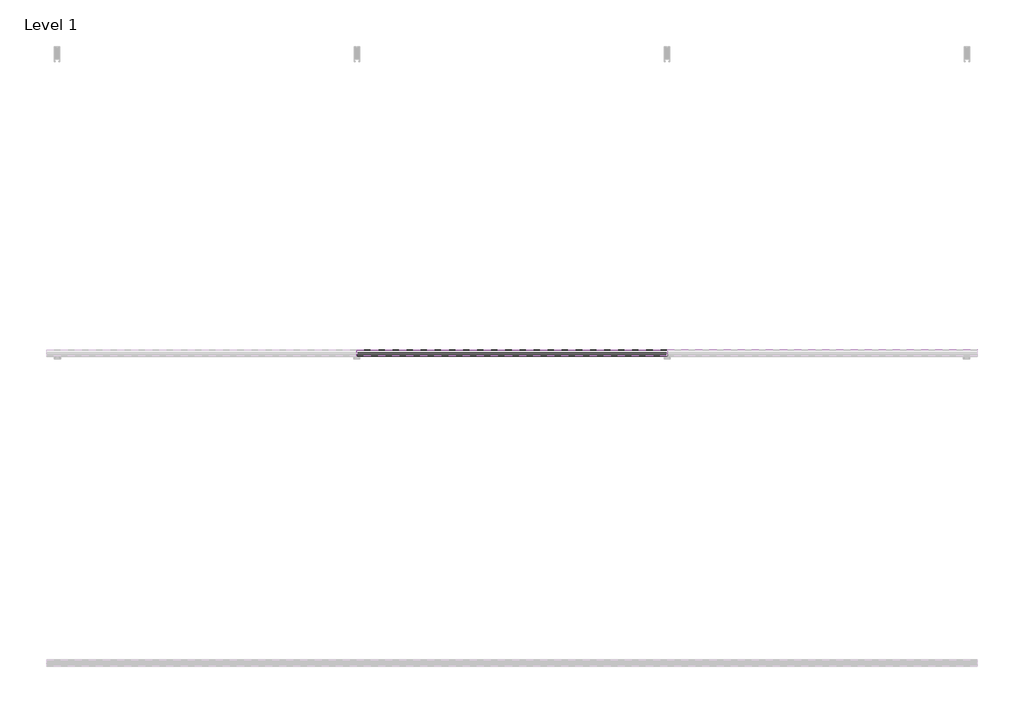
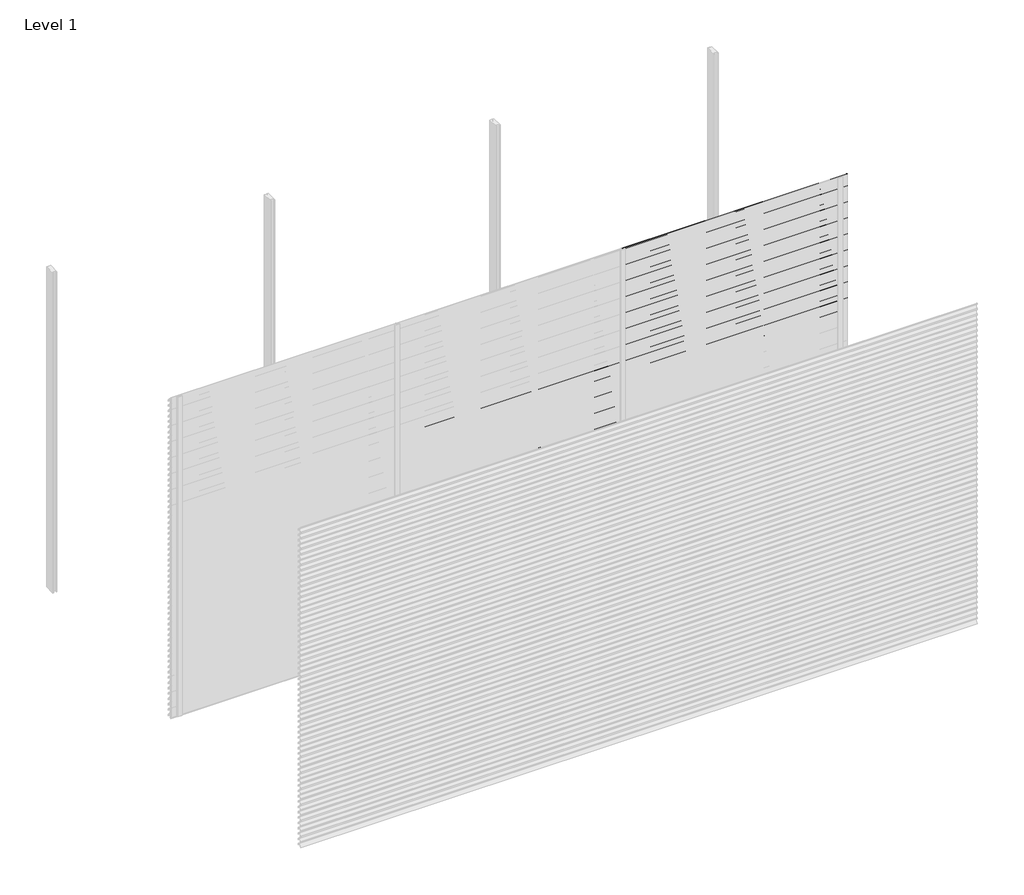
# One storey, part 23 of 38: 66 proxies.
"""IFC4 building model written with IfcOpenShell, lengths in millimetres."""

from ifc_helpers import new_model, si_unit, frame, origin, place, context, project, spatial, polyline, outline, extrude, element, save

model = new_model("IFC4")

# Units and contexts
model_context = context("Model", 3, world=origin())
ifc_project = project(units=[si_unit("LENGTHUNIT", "METRE", prefix="MILLI")], contexts=[model_context])

# Site, building, storey
site = spatial("IfcSite", under=ifc_project)
building = spatial("IfcBuilding", under=site)
storey = spatial("IfcBuildingStorey", under=building, Name="Level 1", Elevation=0.0)

# Proxies
placement = place(None, origin())
element("IfcBuildingElementProxy", 1, Name="Wall Sweeps", at=placement, inside=storey, context=model_context, shape_type="SweptSolid", body=[
    extrude(outline(polyline([(-23996.75, 1950.0), (-23996.75, 1939.19656), (-23974.6057113, 1926.4115489), (-23957.0, 1909.0472005), (-23957.0, 1894.0472005), (-23958.3, 1895.0268207), (-23958.3, 1908.5034593), (-23969.4914725, 1919.541504), (-23994.2797376, 1890.0), (-23995.9767671, 1890.0), (-23970.4200307, 1920.4573323), (-23975.3999793, 1925.3690091), (-23998.0, 1938.4171371), (-23998.0, 1950.0), (-23996.75, 1950.0)])), frame((2000.0, 0.0, 0.0), z_axis=(1.0, 0.0, 0.0), x_axis=(0.0, 1.0, 0.0)), (0.0, 0.0, 1.0), 2000.0),
])
element("IfcBuildingElementProxy", 2, Name="Wall Sweeps", at=placement, inside=storey, context=model_context, shape_type="SweptSolid", body=[
    extrude(outline(polyline([(-23996.75, 1900.0), (-23996.75, 1889.19656), (-23974.6057113, 1876.4115489), (-23957.0, 1859.0472005), (-23957.0, 1844.0472005), (-23958.3, 1845.0268207), (-23958.3, 1858.5034593), (-23969.4914725, 1869.541504), (-23994.2797376, 1840.0), (-23995.9767671, 1840.0), (-23970.4200307, 1870.4573323), (-23975.3999793, 1875.3690091), (-23998.0, 1888.4171371), (-23998.0, 1900.0), (-23996.75, 1900.0)])), frame((2000.0, 0.0, 0.0), z_axis=(1.0, 0.0, 0.0), x_axis=(0.0, 1.0, 0.0)), (0.0, 0.0, 1.0), 2000.0),
])
element("IfcBuildingElementProxy", 3, Name="Wall Sweeps", at=placement, inside=storey, context=model_context, shape_type="SweptSolid", body=[
    extrude(outline(polyline([(-23996.75, 1850.0), (-23996.75, 1839.19656), (-23974.6057113, 1826.4115489), (-23957.0, 1809.0472005), (-23957.0, 1794.0472005), (-23958.3, 1795.0268207), (-23958.3, 1808.5034593), (-23969.4914725, 1819.541504), (-23994.2797376, 1790.0), (-23995.9767671, 1790.0), (-23970.4200307, 1820.4573323), (-23975.3999793, 1825.3690091), (-23998.0, 1838.4171371), (-23998.0, 1850.0), (-23996.75, 1850.0)])), frame((2000.0, 0.0, 0.0), z_axis=(1.0, 0.0, 0.0), x_axis=(0.0, 1.0, 0.0)), (0.0, 0.0, 1.0), 2000.0),
])
element("IfcBuildingElementProxy", 4, Name="Wall Sweeps", at=placement, inside=storey, context=model_context, shape_type="SweptSolid", body=[
    extrude(outline(polyline([(-23996.75, 1800.0), (-23996.75, 1789.19656), (-23974.6057113, 1776.4115489), (-23957.0, 1759.0472005), (-23957.0, 1744.0472005), (-23958.3, 1745.0268207), (-23958.3, 1758.5034593), (-23969.4914725, 1769.541504), (-23994.2797376, 1740.0), (-23995.9767671, 1740.0), (-23970.4200307, 1770.4573323), (-23975.3999793, 1775.3690091), (-23998.0, 1788.4171371), (-23998.0, 1800.0), (-23996.75, 1800.0)])), frame((2000.0, 0.0, 0.0), z_axis=(1.0, 0.0, 0.0), x_axis=(0.0, 1.0, 0.0)), (0.0, 0.0, 1.0), 2000.0),
])
element("IfcBuildingElementProxy", 5, Name="Wall Sweeps", at=placement, inside=storey, context=model_context, shape_type="SweptSolid", body=[
    extrude(outline(polyline([(-23996.75, 1750.0), (-23996.75, 1739.19656), (-23974.6057113, 1726.4115489), (-23957.0, 1709.0472005), (-23957.0, 1694.0472005), (-23958.3, 1695.0268207), (-23958.3, 1708.5034593), (-23969.4914725, 1719.541504), (-23994.2797376, 1690.0), (-23995.9767671, 1690.0), (-23970.4200307, 1720.4573323), (-23975.3999793, 1725.3690091), (-23998.0, 1738.4171371), (-23998.0, 1750.0), (-23996.75, 1750.0)])), frame((2000.0, 0.0, 0.0), z_axis=(1.0, 0.0, 0.0), x_axis=(0.0, 1.0, 0.0)), (0.0, 0.0, 1.0), 2000.0),
])
element("IfcBuildingElementProxy", 6, Name="Wall Sweeps", at=placement, inside=storey, context=model_context, shape_type="SweptSolid", body=[
    extrude(outline(polyline([(-23996.75, 1700.0), (-23996.75, 1689.19656), (-23974.6057113, 1676.4115489), (-23957.0, 1659.0472005), (-23957.0, 1644.0472005), (-23958.3, 1645.0268207), (-23958.3, 1658.5034593), (-23969.4914725, 1669.541504), (-23994.2797376, 1640.0), (-23995.9767671, 1640.0), (-23970.4200307, 1670.4573323), (-23975.3999793, 1675.3690091), (-23998.0, 1688.4171371), (-23998.0, 1700.0), (-23996.75, 1700.0)])), frame((2000.0, 0.0, 0.0), z_axis=(1.0, 0.0, 0.0), x_axis=(0.0, 1.0, 0.0)), (0.0, 0.0, 1.0), 2000.0),
])
element("IfcBuildingElementProxy", 7, Name="Wall Sweeps", at=placement, inside=storey, context=model_context, shape_type="SweptSolid", body=[
    extrude(outline(polyline([(-23996.75, 1650.0), (-23996.75, 1639.19656), (-23974.6057113, 1626.4115489), (-23957.0, 1609.0472005), (-23957.0, 1594.0472005), (-23958.3, 1595.0268207), (-23958.3, 1608.5034593), (-23969.4914725, 1619.541504), (-23994.2797376, 1590.0), (-23995.9767671, 1590.0), (-23970.4200307, 1620.4573323), (-23975.3999793, 1625.3690091), (-23998.0, 1638.4171371), (-23998.0, 1650.0), (-23996.75, 1650.0)])), frame((2000.0, 0.0, 0.0), z_axis=(1.0, 0.0, 0.0), x_axis=(0.0, 1.0, 0.0)), (0.0, 0.0, 1.0), 2000.0),
])
element("IfcBuildingElementProxy", 8, Name="Wall Sweeps", at=placement, inside=storey, context=model_context, shape_type="SweptSolid", body=[
    extrude(outline(polyline([(-23996.75, 1600.0), (-23996.75, 1589.19656), (-23974.6057113, 1576.4115489), (-23957.0, 1559.0472005), (-23957.0, 1544.0472005), (-23958.3, 1545.0268207), (-23958.3, 1558.5034593), (-23969.4914725, 1569.541504), (-23994.2797376, 1540.0), (-23995.9767671, 1540.0), (-23970.4200307, 1570.4573323), (-23975.3999793, 1575.3690091), (-23998.0, 1588.4171371), (-23998.0, 1600.0), (-23996.75, 1600.0)])), frame((2000.0, 0.0, 0.0), z_axis=(1.0, 0.0, 0.0), x_axis=(0.0, 1.0, 0.0)), (0.0, 0.0, 1.0), 2000.0),
])
element("IfcBuildingElementProxy", 9, Name="Wall Sweeps", at=placement, inside=storey, context=model_context, shape_type="SweptSolid", body=[
    extrude(outline(polyline([(-23996.75, 1550.0), (-23996.75, 1539.19656), (-23974.6057113, 1526.4115489), (-23957.0, 1509.0472005), (-23957.0, 1494.0472005), (-23958.3, 1495.0268207), (-23958.3, 1508.5034593), (-23969.4914725, 1519.541504), (-23994.2797376, 1490.0), (-23995.9767671, 1490.0), (-23970.4200307, 1520.4573323), (-23975.3999793, 1525.3690091), (-23998.0, 1538.4171371), (-23998.0, 1550.0), (-23996.75, 1550.0)])), frame((2000.0, 0.0, 0.0), z_axis=(1.0, 0.0, 0.0), x_axis=(0.0, 1.0, 0.0)), (0.0, 0.0, 1.0), 2000.0),
])
element("IfcBuildingElementProxy", 10, Name="Wall Sweeps", at=placement, inside=storey, context=model_context, shape_type="SweptSolid", body=[
    extrude(outline(polyline([(-23996.75, 1500.0), (-23996.75, 1489.19656), (-23974.6057113, 1476.4115489), (-23957.0, 1459.0472005), (-23957.0, 1444.0472005), (-23958.3, 1445.0268207), (-23958.3, 1458.5034593), (-23969.4914725, 1469.541504), (-23994.2797376, 1440.0), (-23995.9767671, 1440.0), (-23970.4200307, 1470.4573323), (-23975.3999793, 1475.3690091), (-23998.0, 1488.4171371), (-23998.0, 1500.0), (-23996.75, 1500.0)])), frame((2000.0, 0.0, 0.0), z_axis=(1.0, 0.0, 0.0), x_axis=(0.0, 1.0, 0.0)), (0.0, 0.0, 1.0), 2000.0),
])
element("IfcBuildingElementProxy", 11, Name="Wall Sweeps", at=placement, inside=storey, context=model_context, shape_type="SweptSolid", body=[
    extrude(outline(polyline([(-23996.75, 1450.0), (-23996.75, 1439.19656), (-23974.6057113, 1426.4115489), (-23957.0, 1409.0472005), (-23957.0, 1394.0472005), (-23958.3, 1395.0268207), (-23958.3, 1408.5034593), (-23969.4914725, 1419.541504), (-23994.2797376, 1390.0), (-23995.9767671, 1390.0), (-23970.4200307, 1420.4573323), (-23975.3999793, 1425.3690091), (-23998.0, 1438.4171371), (-23998.0, 1450.0), (-23996.75, 1450.0)])), frame((2000.0, 0.0, 0.0), z_axis=(1.0, 0.0, 0.0), x_axis=(0.0, 1.0, 0.0)), (0.0, 0.0, 1.0), 2000.0),
])
element("IfcBuildingElementProxy", 12, Name="Wall Sweeps", at=placement, inside=storey, context=model_context, shape_type="SweptSolid", body=[
    extrude(outline(polyline([(-23996.75, 1400.0), (-23996.75, 1389.19656), (-23974.6057113, 1376.4115489), (-23957.0, 1359.0472005), (-23957.0, 1344.0472005), (-23958.3, 1345.0268207), (-23958.3, 1358.5034593), (-23969.4914725, 1369.541504), (-23994.2797376, 1340.0), (-23995.9767671, 1340.0), (-23970.4200307, 1370.4573323), (-23975.3999793, 1375.3690091), (-23998.0, 1388.4171371), (-23998.0, 1400.0), (-23996.75, 1400.0)])), frame((2000.0, 0.0, 0.0), z_axis=(1.0, 0.0, 0.0), x_axis=(0.0, 1.0, 0.0)), (0.0, 0.0, 1.0), 2000.0),
])
element("IfcBuildingElementProxy", 13, Name="Wall Sweeps", at=placement, inside=storey, context=model_context, shape_type="SweptSolid", body=[
    extrude(outline(polyline([(-23996.75, 1350.0), (-23996.75, 1339.19656), (-23974.6057113, 1326.4115489), (-23957.0, 1309.0472005), (-23957.0, 1294.0472005), (-23958.3, 1295.0268207), (-23958.3, 1308.5034593), (-23969.4914725, 1319.541504), (-23994.2797376, 1290.0), (-23995.9767671, 1290.0), (-23970.4200307, 1320.4573323), (-23975.3999793, 1325.3690091), (-23998.0, 1338.4171371), (-23998.0, 1350.0), (-23996.75, 1350.0)])), frame((2000.0, 0.0, 0.0), z_axis=(1.0, 0.0, 0.0), x_axis=(0.0, 1.0, 0.0)), (0.0, 0.0, 1.0), 2000.0),
])
element("IfcBuildingElementProxy", 14, Name="Wall Sweeps", at=placement, inside=storey, context=model_context, shape_type="SweptSolid", body=[
    extrude(outline(polyline([(-23996.75, 1300.0), (-23996.75, 1289.19656), (-23974.6057113, 1276.4115489), (-23957.0, 1259.0472005), (-23957.0, 1244.0472005), (-23958.3, 1245.0268207), (-23958.3, 1258.5034593), (-23969.4914725, 1269.541504), (-23994.2797376, 1240.0), (-23995.9767671, 1240.0), (-23970.4200307, 1270.4573323), (-23975.3999793, 1275.3690091), (-23998.0, 1288.4171371), (-23998.0, 1300.0), (-23996.75, 1300.0)])), frame((2000.0, 0.0, 0.0), z_axis=(1.0, 0.0, 0.0), x_axis=(0.0, 1.0, 0.0)), (0.0, 0.0, 1.0), 2000.0),
])
element("IfcBuildingElementProxy", 15, Name="Wall Sweeps", at=placement, inside=storey, context=model_context, shape_type="SweptSolid", body=[
    extrude(outline(polyline([(-23996.75, 1250.0), (-23996.75, 1239.19656), (-23974.6057113, 1226.4115489), (-23957.0, 1209.0472005), (-23957.0, 1194.0472005), (-23958.3, 1195.0268207), (-23958.3, 1208.5034593), (-23969.4914725, 1219.541504), (-23994.2797376, 1190.0), (-23995.9767671, 1190.0), (-23970.4200307, 1220.4573323), (-23975.3999793, 1225.3690091), (-23998.0, 1238.4171371), (-23998.0, 1250.0), (-23996.75, 1250.0)])), frame((2000.0, 0.0, 0.0), z_axis=(1.0, 0.0, 0.0), x_axis=(0.0, 1.0, 0.0)), (0.0, 0.0, 1.0), 2000.0),
])
element("IfcBuildingElementProxy", 16, Name="Wall Sweeps", at=placement, inside=storey, context=model_context, shape_type="SweptSolid", body=[
    extrude(outline(polyline([(-23996.75, 1200.0), (-23996.75, 1189.19656), (-23974.6057113, 1176.4115489), (-23957.0, 1159.0472005), (-23957.0, 1144.0472005), (-23958.3, 1145.0268207), (-23958.3, 1158.5034593), (-23969.4914725, 1169.541504), (-23994.2797376, 1140.0), (-23995.9767671, 1140.0), (-23970.4200307, 1170.4573323), (-23975.3999793, 1175.3690091), (-23998.0, 1188.4171371), (-23998.0, 1200.0), (-23996.75, 1200.0)])), frame((2000.0, 0.0, 0.0), z_axis=(1.0, 0.0, 0.0), x_axis=(0.0, 1.0, 0.0)), (0.0, 0.0, 1.0), 2000.0),
])
element("IfcBuildingElementProxy", 17, Name="Wall Sweeps", at=placement, inside=storey, context=model_context, shape_type="SweptSolid", body=[
    extrude(outline(polyline([(-23996.75, 1150.0), (-23996.75, 1139.19656), (-23974.6057113, 1126.4115489), (-23957.0, 1109.0472005), (-23957.0, 1094.0472005), (-23958.3, 1095.0268207), (-23958.3, 1108.5034593), (-23969.4914725, 1119.541504), (-23994.2797376, 1090.0), (-23995.9767671, 1090.0), (-23970.4200307, 1120.4573323), (-23975.3999793, 1125.3690091), (-23998.0, 1138.4171371), (-23998.0, 1150.0), (-23996.75, 1150.0)])), frame((2000.0, 0.0, 0.0), z_axis=(1.0, 0.0, 0.0), x_axis=(0.0, 1.0, 0.0)), (0.0, 0.0, 1.0), 2000.0),
])
element("IfcBuildingElementProxy", 18, Name="Wall Sweeps", at=placement, inside=storey, context=model_context, shape_type="SweptSolid", body=[
    extrude(outline(polyline([(-23996.75, 1100.0), (-23996.75, 1089.19656), (-23974.6057113, 1076.4115489), (-23957.0, 1059.0472005), (-23957.0, 1044.0472005), (-23958.3, 1045.0268207), (-23958.3, 1058.5034593), (-23969.4914725, 1069.541504), (-23994.2797376, 1040.0), (-23995.9767671, 1040.0), (-23970.4200307, 1070.4573323), (-23975.3999793, 1075.3690091), (-23998.0, 1088.4171371), (-23998.0, 1100.0), (-23996.75, 1100.0)])), frame((2000.0, 0.0, 0.0), z_axis=(1.0, 0.0, 0.0), x_axis=(0.0, 1.0, 0.0)), (0.0, 0.0, 1.0), 2000.0),
])
element("IfcBuildingElementProxy", 19, Name="Wall Sweeps", at=placement, inside=storey, context=model_context, shape_type="SweptSolid", body=[
    extrude(outline(polyline([(-23996.75, 1050.0), (-23996.75, 1039.19656), (-23974.6057113, 1026.4115489), (-23957.0, 1009.0472005), (-23957.0, 994.0472005), (-23958.3, 995.0268207), (-23958.3, 1008.5034593), (-23969.4914725, 1019.541504), (-23994.2797376, 990.0), (-23995.9767671, 990.0), (-23970.4200307, 1020.4573323), (-23975.3999793, 1025.3690091), (-23998.0, 1038.4171371), (-23998.0, 1050.0), (-23996.75, 1050.0)])), frame((2000.0, 0.0, 0.0), z_axis=(1.0, 0.0, 0.0), x_axis=(0.0, 1.0, 0.0)), (0.0, 0.0, 1.0), 2000.0),
])
element("IfcBuildingElementProxy", 20, Name="Wall Sweeps", at=placement, inside=storey, context=model_context, shape_type="SweptSolid", body=[
    extrude(outline(polyline([(-23996.75, 1000.0), (-23996.75, 989.19656), (-23974.6057113, 976.4115489), (-23957.0, 959.0472005), (-23957.0, 944.0472005), (-23958.3, 945.0268207), (-23958.3, 958.5034593), (-23969.4914725, 969.541504), (-23994.2797376, 940.0), (-23995.9767671, 940.0), (-23970.4200307, 970.4573323), (-23975.3999793, 975.3690091), (-23998.0, 988.4171371), (-23998.0, 1000.0), (-23996.75, 1000.0)])), frame((2000.0, 0.0, 0.0), z_axis=(1.0, 0.0, 0.0), x_axis=(0.0, 1.0, 0.0)), (0.0, 0.0, 1.0), 2000.0),
])
element("IfcBuildingElementProxy", 21, Name="Wall Sweeps", at=placement, inside=storey, context=model_context, shape_type="SweptSolid", body=[
    extrude(outline(polyline([(-23996.75, 950.0), (-23996.75, 939.19656), (-23974.6057113, 926.4115489), (-23957.0, 909.0472005), (-23957.0, 894.0472005), (-23958.3, 895.0268207), (-23958.3, 908.5034593), (-23969.4914725, 919.541504), (-23994.2797376, 890.0), (-23995.9767671, 890.0), (-23970.4200307, 920.4573323), (-23975.3999793, 925.3690091), (-23998.0, 938.4171371), (-23998.0, 950.0), (-23996.75, 950.0)])), frame((2000.0, 0.0, 0.0), z_axis=(1.0, 0.0, 0.0), x_axis=(0.0, 1.0, 0.0)), (0.0, 0.0, 1.0), 2000.0),
])
element("IfcBuildingElementProxy", 22, Name="Wall Sweeps", at=placement, inside=storey, context=model_context, shape_type="SweptSolid", body=[
    extrude(outline(polyline([(-23996.75, 900.0), (-23996.75, 889.19656), (-23974.6057113, 876.4115489), (-23957.0, 859.0472005), (-23957.0, 844.0472005), (-23958.3, 845.0268207), (-23958.3, 858.5034593), (-23969.4914725, 869.541504), (-23994.2797376, 840.0), (-23995.9767671, 840.0), (-23970.4200307, 870.4573323), (-23975.3999793, 875.3690091), (-23998.0, 888.4171371), (-23998.0, 900.0), (-23996.75, 900.0)])), frame((2000.0, 0.0, 0.0), z_axis=(1.0, 0.0, 0.0), x_axis=(0.0, 1.0, 0.0)), (0.0, 0.0, 1.0), 2000.0),
])
element("IfcBuildingElementProxy", 23, Name="Wall Sweeps", at=placement, inside=storey, context=model_context, shape_type="SweptSolid", body=[
    extrude(outline(polyline([(-23996.75, 850.0), (-23996.75, 839.19656), (-23974.6057113, 826.4115489), (-23957.0, 809.0472005), (-23957.0, 794.0472005), (-23958.3, 795.0268207), (-23958.3, 808.5034593), (-23969.4914725, 819.541504), (-23994.2797376, 790.0), (-23995.9767671, 790.0), (-23970.4200307, 820.4573323), (-23975.3999793, 825.3690091), (-23998.0, 838.4171371), (-23998.0, 850.0), (-23996.75, 850.0)])), frame((2000.0, 0.0, 0.0), z_axis=(1.0, 0.0, 0.0), x_axis=(0.0, 1.0, 0.0)), (0.0, 0.0, 1.0), 2000.0),
])
element("IfcBuildingElementProxy", 24, Name="Wall Sweeps", at=placement, inside=storey, context=model_context, shape_type="SweptSolid", body=[
    extrude(outline(polyline([(-23996.75, 800.0), (-23996.75, 789.19656), (-23974.6057113, 776.4115489), (-23957.0, 759.0472005), (-23957.0, 744.0472005), (-23958.3, 745.0268207), (-23958.3, 758.5034593), (-23969.4914725, 769.541504), (-23994.2797376, 740.0), (-23995.9767671, 740.0), (-23970.4200307, 770.4573323), (-23975.3999793, 775.3690091), (-23998.0, 788.4171371), (-23998.0, 800.0), (-23996.75, 800.0)])), frame((2000.0, 0.0, 0.0), z_axis=(1.0, 0.0, 0.0), x_axis=(0.0, 1.0, 0.0)), (0.0, 0.0, 1.0), 2000.0),
])
element("IfcBuildingElementProxy", 25, Name="Wall Sweeps", at=placement, inside=storey, context=model_context, shape_type="SweptSolid", body=[
    extrude(outline(polyline([(-23996.75, 750.0), (-23996.75, 739.19656), (-23974.6057113, 726.4115489), (-23957.0, 709.0472005), (-23957.0, 694.0472005), (-23958.3, 695.0268207), (-23958.3, 708.5034593), (-23969.4914725, 719.541504), (-23994.2797376, 690.0), (-23995.9767671, 690.0), (-23970.4200307, 720.4573323), (-23975.3999793, 725.3690091), (-23998.0, 738.4171371), (-23998.0, 750.0), (-23996.75, 750.0)])), frame((2000.0, 0.0, 0.0), z_axis=(1.0, 0.0, 0.0), x_axis=(0.0, 1.0, 0.0)), (0.0, 0.0, 1.0), 2000.0),
])
element("IfcBuildingElementProxy", 26, Name="Wall Sweeps", at=placement, inside=storey, context=model_context, shape_type="SweptSolid", body=[
    extrude(outline(polyline([(-23996.75, 700.0), (-23996.75, 689.19656), (-23974.6057113, 676.4115489), (-23957.0, 659.0472005), (-23957.0, 644.0472005), (-23958.3, 645.0268207), (-23958.3, 658.5034593), (-23969.4914725, 669.541504), (-23994.2797376, 640.0), (-23995.9767671, 640.0), (-23970.4200307, 670.4573323), (-23975.3999793, 675.3690091), (-23998.0, 688.4171371), (-23998.0, 700.0), (-23996.75, 700.0)])), frame((2000.0, 0.0, 0.0), z_axis=(1.0, 0.0, 0.0), x_axis=(0.0, 1.0, 0.0)), (0.0, 0.0, 1.0), 2000.0),
])
element("IfcBuildingElementProxy", 27, Name="Wall Sweeps", at=placement, inside=storey, context=model_context, shape_type="SweptSolid", body=[
    extrude(outline(polyline([(-23996.75, 650.0), (-23996.75, 639.19656), (-23974.6057113, 626.4115489), (-23957.0, 609.0472005), (-23957.0, 594.0472005), (-23958.3, 595.0268207), (-23958.3, 608.5034593), (-23969.4914725, 619.541504), (-23994.2797376, 590.0), (-23995.9767671, 590.0), (-23970.4200307, 620.4573323), (-23975.3999793, 625.3690091), (-23998.0, 638.4171371), (-23998.0, 650.0), (-23996.75, 650.0)])), frame((2000.0, 0.0, 0.0), z_axis=(1.0, 0.0, 0.0), x_axis=(0.0, 1.0, 0.0)), (0.0, 0.0, 1.0), 2000.0),
])
element("IfcBuildingElementProxy", 28, Name="Wall Sweeps", at=placement, inside=storey, context=model_context, shape_type="SweptSolid", body=[
    extrude(outline(polyline([(-23996.75, 600.0), (-23996.75, 589.19656), (-23974.6057113, 576.4115489), (-23957.0, 559.0472005), (-23957.0, 544.0472005), (-23958.3, 545.0268207), (-23958.3, 558.5034593), (-23969.4914725, 569.541504), (-23994.2797376, 540.0), (-23995.9767671, 540.0), (-23970.4200307, 570.4573323), (-23975.3999793, 575.3690091), (-23998.0, 588.4171371), (-23998.0, 600.0), (-23996.75, 600.0)])), frame((2000.0, 0.0, 0.0), z_axis=(1.0, 0.0, 0.0), x_axis=(0.0, 1.0, 0.0)), (0.0, 0.0, 1.0), 2000.0),
])
element("IfcBuildingElementProxy", 29, Name="Wall Sweeps", at=placement, inside=storey, context=model_context, shape_type="SweptSolid", body=[
    extrude(outline(polyline([(-23996.75, 550.0), (-23996.75, 539.19656), (-23974.6057113, 526.4115489), (-23957.0, 509.0472005), (-23957.0, 494.0472005), (-23958.3, 495.0268207), (-23958.3, 508.5034593), (-23969.4914725, 519.541504), (-23994.2797376, 490.0), (-23995.9767671, 490.0), (-23970.4200307, 520.4573323), (-23975.3999793, 525.3690091), (-23998.0, 538.4171371), (-23998.0, 550.0), (-23996.75, 550.0)])), frame((2000.0, 0.0, 0.0), z_axis=(1.0, 0.0, 0.0), x_axis=(0.0, 1.0, 0.0)), (0.0, 0.0, 1.0), 2000.0),
])
element("IfcBuildingElementProxy", 30, Name="Wall Sweeps", at=placement, inside=storey, context=model_context, shape_type="SweptSolid", body=[
    extrude(outline(polyline([(-23996.75, 500.0), (-23996.75, 489.19656), (-23974.6057113, 476.4115489), (-23957.0, 459.0472005), (-23957.0, 444.0472005), (-23958.3, 445.0268207), (-23958.3, 458.5034593), (-23969.4914725, 469.541504), (-23994.2797376, 440.0), (-23995.9767671, 440.0), (-23970.4200307, 470.4573323), (-23975.3999793, 475.3690091), (-23998.0, 488.4171371), (-23998.0, 500.0), (-23996.75, 500.0)])), frame((2000.0, 0.0, 0.0), z_axis=(1.0, 0.0, 0.0), x_axis=(0.0, 1.0, 0.0)), (0.0, 0.0, 1.0), 2000.0),
])
element("IfcBuildingElementProxy", 31, Name="Wall Sweeps", at=placement, inside=storey, context=model_context, shape_type="SweptSolid", body=[
    extrude(outline(polyline([(-23996.75, 450.0), (-23996.75, 439.19656), (-23974.6057113, 426.4115489), (-23957.0, 409.0472005), (-23957.0, 394.0472005), (-23958.3, 395.0268207), (-23958.3, 408.5034593), (-23969.4914725, 419.541504), (-23994.2797376, 390.0), (-23995.9767671, 390.0), (-23970.4200307, 420.4573323), (-23975.3999793, 425.3690091), (-23998.0, 438.4171371), (-23998.0, 450.0), (-23996.75, 450.0)])), frame((2000.0, 0.0, 0.0), z_axis=(1.0, 0.0, 0.0), x_axis=(0.0, 1.0, 0.0)), (0.0, 0.0, 1.0), 2000.0),
])
element("IfcBuildingElementProxy", 32, Name="Wall Sweeps", at=placement, inside=storey, context=model_context, shape_type="SweptSolid", body=[
    extrude(outline(polyline([(-23996.75, 400.0), (-23996.75, 389.19656), (-23974.6057113, 376.4115489), (-23957.0, 359.0472005), (-23957.0, 344.0472005), (-23958.3, 345.0268207), (-23958.3, 358.5034593), (-23969.4914725, 369.541504), (-23994.2797376, 340.0), (-23995.9767671, 340.0), (-23970.4200307, 370.4573323), (-23975.3999793, 375.3690091), (-23998.0, 388.4171371), (-23998.0, 400.0), (-23996.75, 400.0)])), frame((2000.0, 0.0, 0.0), z_axis=(1.0, 0.0, 0.0), x_axis=(0.0, 1.0, 0.0)), (0.0, 0.0, 1.0), 2000.0),
])
element("IfcBuildingElementProxy", 33, Name="Wall Sweeps", at=placement, inside=storey, context=model_context, shape_type="SweptSolid", body=[
    extrude(outline(polyline([(-23996.75, 350.0), (-23996.75, 339.19656), (-23974.6057113, 326.4115489), (-23957.0, 309.0472005), (-23957.0, 294.0472005), (-23958.3, 295.0268207), (-23958.3, 308.5034593), (-23969.4914725, 319.541504), (-23994.2797376, 290.0), (-23995.9767671, 290.0), (-23970.4200307, 320.4573323), (-23975.3999793, 325.3690091), (-23998.0, 338.4171371), (-23998.0, 350.0), (-23996.75, 350.0)])), frame((2000.0, 0.0, 0.0), z_axis=(1.0, 0.0, 0.0), x_axis=(0.0, 1.0, 0.0)), (0.0, 0.0, 1.0), 2000.0),
])
element("IfcBuildingElementProxy", 34, Name="Wall Sweeps", at=placement, inside=storey, context=model_context, shape_type="SweptSolid", body=[
    extrude(outline(polyline([(-23996.75, 300.0), (-23996.75, 289.19656), (-23974.6057113, 276.4115489), (-23957.0, 259.0472005), (-23957.0, 244.0472005), (-23958.3, 245.0268207), (-23958.3, 258.5034593), (-23969.4914725, 269.541504), (-23994.2797376, 240.0), (-23995.9767671, 240.0), (-23970.4200307, 270.4573323), (-23975.3999793, 275.3690091), (-23998.0, 288.4171371), (-23998.0, 300.0), (-23996.75, 300.0)])), frame((2000.0, 0.0, 0.0), z_axis=(1.0, 0.0, 0.0), x_axis=(0.0, 1.0, 0.0)), (0.0, 0.0, 1.0), 2000.0),
])
element("IfcBuildingElementProxy", 35, Name="Wall Sweeps", at=placement, inside=storey, context=model_context, shape_type="SweptSolid", body=[
    extrude(outline(polyline([(-23996.75, 250.0), (-23996.75, 239.19656), (-23974.6057113, 226.4115489), (-23957.0, 209.0472005), (-23957.0, 194.0472005), (-23958.3, 195.0268207), (-23958.3, 208.5034593), (-23969.4914725, 219.541504), (-23994.2797376, 190.0), (-23995.9767671, 190.0), (-23970.4200307, 220.4573323), (-23975.3999793, 225.3690091), (-23998.0, 238.4171371), (-23998.0, 250.0), (-23996.75, 250.0)])), frame((2000.0, 0.0, 0.0), z_axis=(1.0, 0.0, 0.0), x_axis=(0.0, 1.0, 0.0)), (0.0, 0.0, 1.0), 2000.0),
])
element("IfcBuildingElementProxy", 36, Name="Wall Sweeps", at=placement, inside=storey, context=model_context, shape_type="SweptSolid", body=[
    extrude(outline(polyline([(-23996.75, 200.0), (-23996.75, 189.19656), (-23974.6057113, 176.4115489), (-23957.0, 159.0472005), (-23957.0, 144.0472005), (-23958.3, 145.0268207), (-23958.3, 158.5034593), (-23969.4914725, 169.541504), (-23994.2797376, 140.0), (-23995.9767671, 140.0), (-23970.4200307, 170.4573323), (-23975.3999793, 175.3690091), (-23998.0, 188.4171371), (-23998.0, 200.0), (-23996.75, 200.0)])), frame((2000.0, 0.0, 0.0), z_axis=(1.0, 0.0, 0.0), x_axis=(0.0, 1.0, 0.0)), (0.0, 0.0, 1.0), 2000.0),
])
element("IfcBuildingElementProxy", 37, Name="Wall Sweeps", at=placement, inside=storey, context=model_context, shape_type="SweptSolid", body=[
    extrude(outline(polyline([(-23996.75, 150.0), (-23996.75, 139.19656), (-23974.6057113, 126.4115489), (-23957.0, 109.0472005), (-23957.0, 94.0472005), (-23958.3, 95.0268207), (-23958.3, 108.5034593), (-23969.4914725, 119.541504), (-23994.2797376, 90.0), (-23995.9767671, 90.0), (-23970.4200307, 120.4573323), (-23975.3999793, 125.3690091), (-23998.0, 138.4171371), (-23998.0, 150.0), (-23996.75, 150.0)])), frame((2000.0, 0.0, 0.0), z_axis=(1.0, 0.0, 0.0), x_axis=(0.0, 1.0, 0.0)), (0.0, 0.0, 1.0), 2000.0),
])
element("IfcBuildingElementProxy", 38, Name="Wall Sweeps", at=placement, inside=storey, context=model_context, shape_type="SweptSolid", body=[
    extrude(outline(polyline([(-23996.75, 100.0), (-23996.75, 89.19656), (-23974.6057113, 76.4115489), (-23957.0, 59.0472005), (-23957.0, 44.0472005), (-23958.3, 45.0268207), (-23958.3, 58.5034593), (-23969.4914725, 69.541504), (-23994.2797376, 40.0), (-23995.9767671, 40.0), (-23970.4200307, 70.4573323), (-23975.3999793, 75.3690091), (-23998.0, 88.4171371), (-23998.0, 100.0), (-23996.75, 100.0)])), frame((2000.0, 0.0, 0.0), z_axis=(1.0, 0.0, 0.0), x_axis=(0.0, 1.0, 0.0)), (0.0, 0.0, 1.0), 2000.0),
])
element("IfcBuildingElementProxy", 39, Name="Wall Sweeps", at=placement, inside=storey, context=model_context, shape_type="SweptSolid", body=[
    extrude(outline(polyline([(-23996.75, 50.0), (-23996.75, 39.19656), (-23974.6057113, 26.4115489), (-23957.0, 9.0472005), (-23957.0, -5.9527995), (-23958.3, -4.9731793), (-23958.3, 8.5034593), (-23969.4914725, 19.541504), (-23994.2797376, -10.0), (-23995.9767671, -10.0), (-23970.4200307, 20.4573323), (-23975.3999793, 25.3690091), (-23998.0, 38.4171371), (-23998.0, 50.0), (-23996.75, 50.0)])), frame((2000.0, 0.0, 0.0), z_axis=(1.0, 0.0, 0.0), x_axis=(0.0, 1.0, 0.0)), (0.0, 0.0, 1.0), 2000.0),
])
element("IfcBuildingElementProxy", 40, Name="Wall Sweeps", at=placement, inside=storey, context=model_context, shape_type="SweptSolid", body=[
    extrude(outline(polyline([(-23996.75, 3000.0), (-23996.75, 2989.19656), (-23974.6057113, 2976.4115489), (-23957.0, 2959.0472005), (-23957.0, 2944.0472005), (-23958.3, 2945.0268207), (-23958.3, 2958.5034593), (-23969.4914725, 2969.541504), (-23994.2797376, 2940.0), (-23995.9767671, 2940.0), (-23970.4200307, 2970.4573323), (-23975.3999793, 2975.3690091), (-23998.0, 2988.4171371), (-23998.0, 3000.0), (-23996.75, 3000.0)])), frame((4000.0, 0.0, 0.0), z_axis=(1.0, 0.0, 0.0), x_axis=(0.0, 1.0, 0.0)), (0.0, 0.0, 1.0), 2000.0),
])
element("IfcBuildingElementProxy", 41, Name="Wall Sweeps", at=placement, inside=storey, context=model_context, shape_type="SweptSolid", body=[
    extrude(outline(polyline([(-23996.75, 2950.0), (-23996.75, 2939.19656), (-23974.6057113, 2926.4115489), (-23957.0, 2909.0472005), (-23957.0, 2894.0472005), (-23958.3, 2895.0268207), (-23958.3, 2908.5034593), (-23969.4914725, 2919.541504), (-23994.2797376, 2890.0), (-23995.9767671, 2890.0), (-23970.4200307, 2920.4573323), (-23975.3999793, 2925.3690091), (-23998.0, 2938.4171371), (-23998.0, 2950.0), (-23996.75, 2950.0)])), frame((4000.0, 0.0, 0.0), z_axis=(1.0, 0.0, 0.0), x_axis=(0.0, 1.0, 0.0)), (0.0, 0.0, 1.0), 2000.0),
])
element("IfcBuildingElementProxy", 42, Name="Wall Sweeps", at=placement, inside=storey, context=model_context, shape_type="SweptSolid", body=[
    extrude(outline(polyline([(-23996.75, 2900.0), (-23996.75, 2889.19656), (-23974.6057113, 2876.4115489), (-23957.0, 2859.0472005), (-23957.0, 2844.0472005), (-23958.3, 2845.0268207), (-23958.3, 2858.5034593), (-23969.4914725, 2869.541504), (-23994.2797376, 2840.0), (-23995.9767671, 2840.0), (-23970.4200307, 2870.4573323), (-23975.3999793, 2875.3690091), (-23998.0, 2888.4171371), (-23998.0, 2900.0), (-23996.75, 2900.0)])), frame((4000.0, 0.0, 0.0), z_axis=(1.0, 0.0, 0.0), x_axis=(0.0, 1.0, 0.0)), (0.0, 0.0, 1.0), 2000.0),
])
element("IfcBuildingElementProxy", 43, Name="Wall Sweeps", at=placement, inside=storey, context=model_context, shape_type="SweptSolid", body=[
    extrude(outline(polyline([(-23996.75, 2850.0), (-23996.75, 2839.19656), (-23974.6057113, 2826.4115489), (-23957.0, 2809.0472005), (-23957.0, 2794.0472005), (-23958.3, 2795.0268207), (-23958.3, 2808.5034593), (-23969.4914725, 2819.541504), (-23994.2797376, 2790.0), (-23995.9767671, 2790.0), (-23970.4200307, 2820.4573323), (-23975.3999793, 2825.3690091), (-23998.0, 2838.4171371), (-23998.0, 2850.0), (-23996.75, 2850.0)])), frame((4000.0, 0.0, 0.0), z_axis=(1.0, 0.0, 0.0), x_axis=(0.0, 1.0, 0.0)), (0.0, 0.0, 1.0), 2000.0),
])
element("IfcBuildingElementProxy", 44, Name="Wall Sweeps", at=placement, inside=storey, context=model_context, shape_type="SweptSolid", body=[
    extrude(outline(polyline([(-23996.75, 2800.0), (-23996.75, 2789.19656), (-23974.6057113, 2776.4115489), (-23957.0, 2759.0472005), (-23957.0, 2744.0472005), (-23958.3, 2745.0268207), (-23958.3, 2758.5034593), (-23969.4914725, 2769.541504), (-23994.2797376, 2740.0), (-23995.9767671, 2740.0), (-23970.4200307, 2770.4573323), (-23975.3999793, 2775.3690091), (-23998.0, 2788.4171371), (-23998.0, 2800.0), (-23996.75, 2800.0)])), frame((4000.0, 0.0, 0.0), z_axis=(1.0, 0.0, 0.0), x_axis=(0.0, 1.0, 0.0)), (0.0, 0.0, 1.0), 2000.0),
])
element("IfcBuildingElementProxy", 45, Name="Wall Sweeps", at=placement, inside=storey, context=model_context, shape_type="SweptSolid", body=[
    extrude(outline(polyline([(-23996.75, 2750.0), (-23996.75, 2739.19656), (-23974.6057113, 2726.4115489), (-23957.0, 2709.0472005), (-23957.0, 2694.0472005), (-23958.3, 2695.0268207), (-23958.3, 2708.5034593), (-23969.4914725, 2719.541504), (-23994.2797376, 2690.0), (-23995.9767671, 2690.0), (-23970.4200307, 2720.4573323), (-23975.3999793, 2725.3690091), (-23998.0, 2738.4171371), (-23998.0, 2750.0), (-23996.75, 2750.0)])), frame((4000.0, 0.0, 0.0), z_axis=(1.0, 0.0, 0.0), x_axis=(0.0, 1.0, 0.0)), (0.0, 0.0, 1.0), 2000.0),
])
element("IfcBuildingElementProxy", 46, Name="Wall Sweeps", at=placement, inside=storey, context=model_context, shape_type="SweptSolid", body=[
    extrude(outline(polyline([(-23996.75, 2700.0), (-23996.75, 2689.19656), (-23974.6057113, 2676.4115489), (-23957.0, 2659.0472005), (-23957.0, 2644.0472005), (-23958.3, 2645.0268207), (-23958.3, 2658.5034593), (-23969.4914725, 2669.541504), (-23994.2797376, 2640.0), (-23995.9767671, 2640.0), (-23970.4200307, 2670.4573323), (-23975.3999793, 2675.3690091), (-23998.0, 2688.4171371), (-23998.0, 2700.0), (-23996.75, 2700.0)])), frame((4000.0, 0.0, 0.0), z_axis=(1.0, 0.0, 0.0), x_axis=(0.0, 1.0, 0.0)), (0.0, 0.0, 1.0), 2000.0),
])
element("IfcBuildingElementProxy", 47, Name="Wall Sweeps", at=placement, inside=storey, context=model_context, shape_type="SweptSolid", body=[
    extrude(outline(polyline([(-23996.75, 2650.0), (-23996.75, 2639.19656), (-23974.6057113, 2626.4115489), (-23957.0, 2609.0472005), (-23957.0, 2594.0472005), (-23958.3, 2595.0268207), (-23958.3, 2608.5034593), (-23969.4914725, 2619.541504), (-23994.2797376, 2590.0), (-23995.9767671, 2590.0), (-23970.4200307, 2620.4573323), (-23975.3999793, 2625.3690091), (-23998.0, 2638.4171371), (-23998.0, 2650.0), (-23996.75, 2650.0)])), frame((4000.0, 0.0, 0.0), z_axis=(1.0, 0.0, 0.0), x_axis=(0.0, 1.0, 0.0)), (0.0, 0.0, 1.0), 2000.0),
])
element("IfcBuildingElementProxy", 48, Name="Wall Sweeps", at=placement, inside=storey, context=model_context, shape_type="SweptSolid", body=[
    extrude(outline(polyline([(-23996.75, 2600.0), (-23996.75, 2589.19656), (-23974.6057113, 2576.4115489), (-23957.0, 2559.0472005), (-23957.0, 2544.0472005), (-23958.3, 2545.0268207), (-23958.3, 2558.5034593), (-23969.4914725, 2569.541504), (-23994.2797376, 2540.0), (-23995.9767671, 2540.0), (-23970.4200307, 2570.4573323), (-23975.3999793, 2575.3690091), (-23998.0, 2588.4171371), (-23998.0, 2600.0), (-23996.75, 2600.0)])), frame((4000.0, 0.0, 0.0), z_axis=(1.0, 0.0, 0.0), x_axis=(0.0, 1.0, 0.0)), (0.0, 0.0, 1.0), 2000.0),
])
element("IfcBuildingElementProxy", 49, Name="Wall Sweeps", at=placement, inside=storey, context=model_context, shape_type="SweptSolid", body=[
    extrude(outline(polyline([(-23996.75, 2550.0), (-23996.75, 2539.19656), (-23974.6057113, 2526.4115489), (-23957.0, 2509.0472005), (-23957.0, 2494.0472005), (-23958.3, 2495.0268207), (-23958.3, 2508.5034593), (-23969.4914725, 2519.541504), (-23994.2797376, 2490.0), (-23995.9767671, 2490.0), (-23970.4200307, 2520.4573323), (-23975.3999793, 2525.3690091), (-23998.0, 2538.4171371), (-23998.0, 2550.0), (-23996.75, 2550.0)])), frame((4000.0, 0.0, 0.0), z_axis=(1.0, 0.0, 0.0), x_axis=(0.0, 1.0, 0.0)), (0.0, 0.0, 1.0), 2000.0),
])
element("IfcBuildingElementProxy", 50, Name="Wall Sweeps", at=placement, inside=storey, context=model_context, shape_type="SweptSolid", body=[
    extrude(outline(polyline([(-23996.75, 2500.0), (-23996.75, 2489.19656), (-23974.6057113, 2476.4115489), (-23957.0, 2459.0472005), (-23957.0, 2444.0472005), (-23958.3, 2445.0268207), (-23958.3, 2458.5034593), (-23969.4914725, 2469.541504), (-23994.2797376, 2440.0), (-23995.9767671, 2440.0), (-23970.4200307, 2470.4573323), (-23975.3999793, 2475.3690091), (-23998.0, 2488.4171371), (-23998.0, 2500.0), (-23996.75, 2500.0)])), frame((4000.0, 0.0, 0.0), z_axis=(1.0, 0.0, 0.0), x_axis=(0.0, 1.0, 0.0)), (0.0, 0.0, 1.0), 2000.0),
])
element("IfcBuildingElementProxy", 51, Name="Wall Sweeps", at=placement, inside=storey, context=model_context, shape_type="SweptSolid", body=[
    extrude(outline(polyline([(-23996.75, 2450.0), (-23996.75, 2439.19656), (-23974.6057113, 2426.4115489), (-23957.0, 2409.0472005), (-23957.0, 2394.0472005), (-23958.3, 2395.0268207), (-23958.3, 2408.5034593), (-23969.4914725, 2419.541504), (-23994.2797376, 2390.0), (-23995.9767671, 2390.0), (-23970.4200307, 2420.4573323), (-23975.3999793, 2425.3690091), (-23998.0, 2438.4171371), (-23998.0, 2450.0), (-23996.75, 2450.0)])), frame((4000.0, 0.0, 0.0), z_axis=(1.0, 0.0, 0.0), x_axis=(0.0, 1.0, 0.0)), (0.0, 0.0, 1.0), 2000.0),
])
element("IfcBuildingElementProxy", 52, Name="Wall Sweeps", at=placement, inside=storey, context=model_context, shape_type="SweptSolid", body=[
    extrude(outline(polyline([(-23996.75, 2400.0), (-23996.75, 2389.19656), (-23974.6057113, 2376.4115489), (-23957.0, 2359.0472005), (-23957.0, 2344.0472005), (-23958.3, 2345.0268207), (-23958.3, 2358.5034593), (-23969.4914725, 2369.541504), (-23994.2797376, 2340.0), (-23995.9767671, 2340.0), (-23970.4200307, 2370.4573323), (-23975.3999793, 2375.3690091), (-23998.0, 2388.4171371), (-23998.0, 2400.0), (-23996.75, 2400.0)])), frame((4000.0, 0.0, 0.0), z_axis=(1.0, 0.0, 0.0), x_axis=(0.0, 1.0, 0.0)), (0.0, 0.0, 1.0), 2000.0),
])
element("IfcBuildingElementProxy", 53, Name="Wall Sweeps", at=placement, inside=storey, context=model_context, shape_type="SweptSolid", body=[
    extrude(outline(polyline([(-23996.75, 2350.0), (-23996.75, 2339.19656), (-23974.6057113, 2326.4115489), (-23957.0, 2309.0472005), (-23957.0, 2294.0472005), (-23958.3, 2295.0268207), (-23958.3, 2308.5034593), (-23969.4914725, 2319.541504), (-23994.2797376, 2290.0), (-23995.9767671, 2290.0), (-23970.4200307, 2320.4573323), (-23975.3999793, 2325.3690091), (-23998.0, 2338.4171371), (-23998.0, 2350.0), (-23996.75, 2350.0)])), frame((4000.0, 0.0, 0.0), z_axis=(1.0, 0.0, 0.0), x_axis=(0.0, 1.0, 0.0)), (0.0, 0.0, 1.0), 2000.0),
])
element("IfcBuildingElementProxy", 54, Name="Wall Sweeps", at=placement, inside=storey, context=model_context, shape_type="SweptSolid", body=[
    extrude(outline(polyline([(-23996.75, 2300.0), (-23996.75, 2289.19656), (-23974.6057113, 2276.4115489), (-23957.0, 2259.0472005), (-23957.0, 2244.0472005), (-23958.3, 2245.0268207), (-23958.3, 2258.5034593), (-23969.4914725, 2269.541504), (-23994.2797376, 2240.0), (-23995.9767671, 2240.0), (-23970.4200307, 2270.4573323), (-23975.3999793, 2275.3690091), (-23998.0, 2288.4171371), (-23998.0, 2300.0), (-23996.75, 2300.0)])), frame((4000.0, 0.0, 0.0), z_axis=(1.0, 0.0, 0.0), x_axis=(0.0, 1.0, 0.0)), (0.0, 0.0, 1.0), 2000.0),
])
element("IfcBuildingElementProxy", 55, Name="Wall Sweeps", at=placement, inside=storey, context=model_context, shape_type="SweptSolid", body=[
    extrude(outline(polyline([(-23996.75, 2250.0), (-23996.75, 2239.19656), (-23974.6057113, 2226.4115489), (-23957.0, 2209.0472005), (-23957.0, 2194.0472005), (-23958.3, 2195.0268207), (-23958.3, 2208.5034593), (-23969.4914725, 2219.541504), (-23994.2797376, 2190.0), (-23995.9767671, 2190.0), (-23970.4200307, 2220.4573323), (-23975.3999793, 2225.3690091), (-23998.0, 2238.4171371), (-23998.0, 2250.0), (-23996.75, 2250.0)])), frame((4000.0, 0.0, 0.0), z_axis=(1.0, 0.0, 0.0), x_axis=(0.0, 1.0, 0.0)), (0.0, 0.0, 1.0), 2000.0),
])
element("IfcBuildingElementProxy", 56, Name="Wall Sweeps", at=placement, inside=storey, context=model_context, shape_type="SweptSolid", body=[
    extrude(outline(polyline([(-23996.75, 2200.0), (-23996.75, 2189.19656), (-23974.6057113, 2176.4115489), (-23957.0, 2159.0472005), (-23957.0, 2144.0472005), (-23958.3, 2145.0268207), (-23958.3, 2158.5034593), (-23969.4914725, 2169.541504), (-23994.2797376, 2140.0), (-23995.9767671, 2140.0), (-23970.4200307, 2170.4573323), (-23975.3999793, 2175.3690091), (-23998.0, 2188.4171371), (-23998.0, 2200.0), (-23996.75, 2200.0)])), frame((4000.0, 0.0, 0.0), z_axis=(1.0, 0.0, 0.0), x_axis=(0.0, 1.0, 0.0)), (0.0, 0.0, 1.0), 2000.0),
])
element("IfcBuildingElementProxy", 57, Name="Wall Sweeps", at=placement, inside=storey, context=model_context, shape_type="SweptSolid", body=[
    extrude(outline(polyline([(-23996.75, 2150.0), (-23996.75, 2139.19656), (-23974.6057113, 2126.4115489), (-23957.0, 2109.0472005), (-23957.0, 2094.0472005), (-23958.3, 2095.0268207), (-23958.3, 2108.5034593), (-23969.4914725, 2119.541504), (-23994.2797376, 2090.0), (-23995.9767671, 2090.0), (-23970.4200307, 2120.4573323), (-23975.3999793, 2125.3690091), (-23998.0, 2138.4171371), (-23998.0, 2150.0), (-23996.75, 2150.0)])), frame((4000.0, 0.0, 0.0), z_axis=(1.0, 0.0, 0.0), x_axis=(0.0, 1.0, 0.0)), (0.0, 0.0, 1.0), 2000.0),
])
element("IfcBuildingElementProxy", 58, Name="Wall Sweeps", at=placement, inside=storey, context=model_context, shape_type="SweptSolid", body=[
    extrude(outline(polyline([(-23996.75, 2100.0), (-23996.75, 2089.19656), (-23974.6057113, 2076.4115489), (-23957.0, 2059.0472005), (-23957.0, 2044.0472005), (-23958.3, 2045.0268207), (-23958.3, 2058.5034593), (-23969.4914725, 2069.541504), (-23994.2797376, 2040.0), (-23995.9767671, 2040.0), (-23970.4200307, 2070.4573323), (-23975.3999793, 2075.3690091), (-23998.0, 2088.4171371), (-23998.0, 2100.0), (-23996.75, 2100.0)])), frame((4000.0, 0.0, 0.0), z_axis=(1.0, 0.0, 0.0), x_axis=(0.0, 1.0, 0.0)), (0.0, 0.0, 1.0), 2000.0),
])
element("IfcBuildingElementProxy", 59, Name="Wall Sweeps", at=placement, inside=storey, context=model_context, shape_type="SweptSolid", body=[
    extrude(outline(polyline([(-23996.75, 2050.0), (-23996.75, 2039.19656), (-23974.6057113, 2026.4115489), (-23957.0, 2009.0472005), (-23957.0, 1994.0472005), (-23958.3, 1995.0268207), (-23958.3, 2008.5034593), (-23969.4914725, 2019.541504), (-23994.2797376, 1990.0), (-23995.9767671, 1990.0), (-23970.4200307, 2020.4573323), (-23975.3999793, 2025.3690091), (-23998.0, 2038.4171371), (-23998.0, 2050.0), (-23996.75, 2050.0)])), frame((4000.0, 0.0, 0.0), z_axis=(1.0, 0.0, 0.0), x_axis=(0.0, 1.0, 0.0)), (0.0, 0.0, 1.0), 2000.0),
])
element("IfcBuildingElementProxy", 60, Name="Wall Sweeps", at=placement, inside=storey, context=model_context, shape_type="SweptSolid", body=[
    extrude(outline(polyline([(-23996.75, 2000.0), (-23996.75, 1989.19656), (-23974.6057113, 1976.4115489), (-23957.0, 1959.0472005), (-23957.0, 1944.0472005), (-23958.3, 1945.0268207), (-23958.3, 1958.5034593), (-23969.4914725, 1969.541504), (-23994.2797376, 1940.0), (-23995.9767671, 1940.0), (-23970.4200307, 1970.4573323), (-23975.3999793, 1975.3690091), (-23998.0, 1988.4171371), (-23998.0, 2000.0), (-23996.75, 2000.0)])), frame((4000.0, 0.0, 0.0), z_axis=(1.0, 0.0, 0.0), x_axis=(0.0, 1.0, 0.0)), (0.0, 0.0, 1.0), 2000.0),
])
element("IfcBuildingElementProxy", 61, Name="Wall Sweeps", at=placement, inside=storey, context=model_context, shape_type="SweptSolid", body=[
    extrude(outline(polyline([(-23996.75, 1950.0), (-23996.75, 1939.19656), (-23974.6057113, 1926.4115489), (-23957.0, 1909.0472005), (-23957.0, 1894.0472005), (-23958.3, 1895.0268207), (-23958.3, 1908.5034593), (-23969.4914725, 1919.541504), (-23994.2797376, 1890.0), (-23995.9767671, 1890.0), (-23970.4200307, 1920.4573323), (-23975.3999793, 1925.3690091), (-23998.0, 1938.4171371), (-23998.0, 1950.0), (-23996.75, 1950.0)])), frame((4000.0, 0.0, 0.0), z_axis=(1.0, 0.0, 0.0), x_axis=(0.0, 1.0, 0.0)), (0.0, 0.0, 1.0), 2000.0),
])
element("IfcBuildingElementProxy", 62, Name="Wall Sweeps", at=placement, inside=storey, context=model_context, shape_type="SweptSolid", body=[
    extrude(outline(polyline([(-23996.75, 1900.0), (-23996.75, 1889.19656), (-23974.6057113, 1876.4115489), (-23957.0, 1859.0472005), (-23957.0, 1844.0472005), (-23958.3, 1845.0268207), (-23958.3, 1858.5034593), (-23969.4914725, 1869.541504), (-23994.2797376, 1840.0), (-23995.9767671, 1840.0), (-23970.4200307, 1870.4573323), (-23975.3999793, 1875.3690091), (-23998.0, 1888.4171371), (-23998.0, 1900.0), (-23996.75, 1900.0)])), frame((4000.0, 0.0, 0.0), z_axis=(1.0, 0.0, 0.0), x_axis=(0.0, 1.0, 0.0)), (0.0, 0.0, 1.0), 2000.0),
])
element("IfcBuildingElementProxy", 63, Name="Wall Sweeps", at=placement, inside=storey, context=model_context, shape_type="SweptSolid", body=[
    extrude(outline(polyline([(-23996.75, 1850.0), (-23996.75, 1839.19656), (-23974.6057113, 1826.4115489), (-23957.0, 1809.0472005), (-23957.0, 1794.0472005), (-23958.3, 1795.0268207), (-23958.3, 1808.5034593), (-23969.4914725, 1819.541504), (-23994.2797376, 1790.0), (-23995.9767671, 1790.0), (-23970.4200307, 1820.4573323), (-23975.3999793, 1825.3690091), (-23998.0, 1838.4171371), (-23998.0, 1850.0), (-23996.75, 1850.0)])), frame((4000.0, 0.0, 0.0), z_axis=(1.0, 0.0, 0.0), x_axis=(0.0, 1.0, 0.0)), (0.0, 0.0, 1.0), 2000.0),
])
element("IfcBuildingElementProxy", 64, Name="Wall Sweeps", at=placement, inside=storey, context=model_context, shape_type="SweptSolid", body=[
    extrude(outline(polyline([(-23996.75, 1800.0), (-23996.75, 1789.19656), (-23974.6057113, 1776.4115489), (-23957.0, 1759.0472005), (-23957.0, 1744.0472005), (-23958.3, 1745.0268207), (-23958.3, 1758.5034593), (-23969.4914725, 1769.541504), (-23994.2797376, 1740.0), (-23995.9767671, 1740.0), (-23970.4200307, 1770.4573323), (-23975.3999793, 1775.3690091), (-23998.0, 1788.4171371), (-23998.0, 1800.0), (-23996.75, 1800.0)])), frame((4000.0, 0.0, 0.0), z_axis=(1.0, 0.0, 0.0), x_axis=(0.0, 1.0, 0.0)), (0.0, 0.0, 1.0), 2000.0),
])
element("IfcBuildingElementProxy", 65, Name="Wall Sweeps", at=placement, inside=storey, context=model_context, shape_type="SweptSolid", body=[
    extrude(outline(polyline([(-23996.75, 1750.0), (-23996.75, 1739.19656), (-23974.6057113, 1726.4115489), (-23957.0, 1709.0472005), (-23957.0, 1694.0472005), (-23958.3, 1695.0268207), (-23958.3, 1708.5034593), (-23969.4914725, 1719.541504), (-23994.2797376, 1690.0), (-23995.9767671, 1690.0), (-23970.4200307, 1720.4573323), (-23975.3999793, 1725.3690091), (-23998.0, 1738.4171371), (-23998.0, 1750.0), (-23996.75, 1750.0)])), frame((4000.0, 0.0, 0.0), z_axis=(1.0, 0.0, 0.0), x_axis=(0.0, 1.0, 0.0)), (0.0, 0.0, 1.0), 2000.0),
])
element("IfcBuildingElementProxy", 66, Name="Wall Sweeps", at=placement, inside=storey, context=model_context, shape_type="SweptSolid", body=[
    extrude(outline(polyline([(-23996.75, 1700.0), (-23996.75, 1689.19656), (-23974.6057113, 1676.4115489), (-23957.0, 1659.0472005), (-23957.0, 1644.0472005), (-23958.3, 1645.0268207), (-23958.3, 1658.5034593), (-23969.4914725, 1669.541504), (-23994.2797376, 1640.0), (-23995.9767671, 1640.0), (-23970.4200307, 1670.4573323), (-23975.3999793, 1675.3690091), (-23998.0, 1688.4171371), (-23998.0, 1700.0), (-23996.75, 1700.0)])), frame((4000.0, 0.0, 0.0), z_axis=(1.0, 0.0, 0.0), x_axis=(0.0, 1.0, 0.0)), (0.0, 0.0, 1.0), 2000.0),
])

save(model, "model.ifc")
